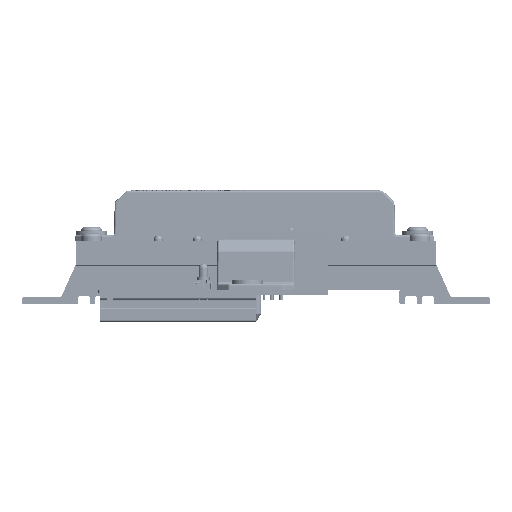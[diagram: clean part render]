
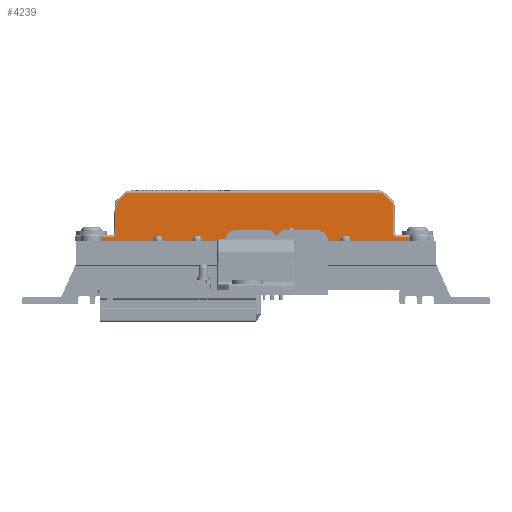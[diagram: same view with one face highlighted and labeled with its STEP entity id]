
A CAD part, left-side view. The second image highlights one B-rep face of the part: STEP entity #4239.
In plain terms, the highlighted planar face has unit normal (-1, 0, 0.009) as drawn and (0, 1, 0.009) by its records, which use the part's own axes.
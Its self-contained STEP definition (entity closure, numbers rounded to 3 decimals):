
#4239 = ADVANCED_FACE( '', ( #12467 ), #12468, .T. );
#12467 = FACE_OUTER_BOUND( '', #25446, .T. );
#12468 = PLANE( '', #25447 );
#25446 = EDGE_LOOP( '', ( #41723, #41724, #41725, #41726, #41727, #41728, #41729, #41730, #41731, #41732, #41733, #41734 ) );
#25447 = AXIS2_PLACEMENT_3D( '', #41735, #41736, #41737 );
#41723 = ORIENTED_EDGE( '', *, *, #87837, .T. );
#41724 = ORIENTED_EDGE( '', *, *, #87838, .T. );
#41725 = ORIENTED_EDGE( '', *, *, #87839, .T. );
#41726 = ORIENTED_EDGE( '', *, *, #87840, .T. );
#41727 = ORIENTED_EDGE( '', *, *, #87841, .T. );
#41728 = ORIENTED_EDGE( '', *, *, #87842, .T. );
#41729 = ORIENTED_EDGE( '', *, *, #87843, .T. );
#41730 = ORIENTED_EDGE( '', *, *, #87844, .T. );
#41731 = ORIENTED_EDGE( '', *, *, #87845, .T. );
#41732 = ORIENTED_EDGE( '', *, *, #87846, .T. );
#41733 = ORIENTED_EDGE( '', *, *, #87847, .T. );
#41734 = ORIENTED_EDGE( '', *, *, #87848, .T. );
#41735 = CARTESIAN_POINT( '', ( 0., 12.7, 0. ) );
#41736 = DIRECTION( '', ( 0., 1., 0.009 ) );
#41737 = DIRECTION( '', ( 0., -0.009, 1. ) );
#87837 = EDGE_CURVE( '', #103788, #103789, #103790, .F. );
#87838 = EDGE_CURVE( '', #103789, #103791, #103792, .T. );
#87839 = EDGE_CURVE( '', #103791, #103793, #103794, .F. );
#87840 = EDGE_CURVE( '', #103793, #103795, #103796, .F. );
#87841 = EDGE_CURVE( '', #103795, #103797, #103798, .F. );
#87842 = EDGE_CURVE( '', #103797, #103799, #103800, .F. );
#87843 = EDGE_CURVE( '', #103799, #103801, #103802, .F. );
#87844 = EDGE_CURVE( '', #103801, #103803, #103804, .T. );
#87845 = EDGE_CURVE( '', #103803, #103805, #103806, .F. );
#87846 = EDGE_CURVE( '', #103805, #103807, #103808, .F. );
#87847 = EDGE_CURVE( '', #103807, #103809, #103810, .F. );
#87848 = EDGE_CURVE( '', #103809, #103788, #103811, .T. );
#103788 = VERTEX_POINT( '', #126581 );
#103789 = VERTEX_POINT( '', #126582 );
#103790 = ELLIPSE( '', #126583, 1.27, 1.27 );
#103791 = VERTEX_POINT( '', #126584 );
#103792 = LINE( '', #126585, #126586 );
#103793 = VERTEX_POINT( '', #126587 );
#103794 = LINE( '', #126588, #126589 );
#103795 = VERTEX_POINT( '', #126590 );
#103796 = LINE( '', #126591, #126592 );
#103797 = VERTEX_POINT( '', #126593 );
#103798 = LINE( '', #126594, #126595 );
#103799 = VERTEX_POINT( '', #126596 );
#103800 = LINE( '', #126597, #126598 );
#103801 = VERTEX_POINT( '', #126599 );
#103802 = ELLIPSE( '', #126600, 1.27, 1.27 );
#103803 = VERTEX_POINT( '', #126601 );
#103804 = LINE( '', #126602, #126603 );
#103805 = VERTEX_POINT( '', #126604 );
#103806 = LINE( '', #126605, #126606 );
#103807 = VERTEX_POINT( '', #126607 );
#103808 = LINE( '', #126608, #126609 );
#103809 = VERTEX_POINT( '', #126610 );
#103810 = LINE( '', #126611, #126612 );
#103811 = LINE( '', #126613, #126614 );
#126581 = CARTESIAN_POINT( '', ( 45.074, 12.677, 2.65 ) );
#126582 = CARTESIAN_POINT( '', ( 46.344, 12.688, 1.403 ) );
#126583 = AXIS2_PLACEMENT_3D( '', #177623, #177624, #177625 );
#126584 = CARTESIAN_POINT( '', ( 54.335, 12.688, 1.403 ) );
#126585 = CARTESIAN_POINT( '', ( 54.329, 12.688, 1.403 ) );
#126586 = VECTOR( '', #177626, 1000. );
#126587 = CARTESIAN_POINT( '', ( 54.347, 12.7, 0. ) );
#126588 = CARTESIAN_POINT( '', ( 54.347, 12.7, -0.002 ) );
#126589 = VECTOR( '', #177627, 1000. );
#126590 = CARTESIAN_POINT( '', ( -54.347, 12.7, 0. ) );
#126591 = CARTESIAN_POINT( '', ( 0., 12.7, 0. ) );
#126592 = VECTOR( '', #177628, 1000. );
#126593 = CARTESIAN_POINT( '', ( -54.335, 12.688, 1.403 ) );
#126594 = CARTESIAN_POINT( '', ( -54.329, 12.682, 2.03 ) );
#126595 = VECTOR( '', #177629, 1000. );
#126596 = CARTESIAN_POINT( '', ( -46.344, 12.688, 1.403 ) );
#126597 = CARTESIAN_POINT( '', ( 0., 12.688, 1.403 ) );
#126598 = VECTOR( '', #177630, 1000. );
#126599 = CARTESIAN_POINT( '', ( -45.074, 12.677, 2.65 ) );
#126600 = AXIS2_PLACEMENT_3D( '', #177631, #177632, #177633 );
#126601 = CARTESIAN_POINT( '', ( -44.903, 12.591, 12.435 ) );
#126602 = CARTESIAN_POINT( '', ( -45.107, 12.693, 0.787 ) );
#126603 = VECTOR( '', #177634, 1000. );
#126604 = CARTESIAN_POINT( '', ( -41.398, 12.561, 15.881 ) );
#126605 = CARTESIAN_POINT( '', ( -41.4, 12.561, 15.878 ) );
#126606 = VECTOR( '', #177635, 1000. );
#126607 = CARTESIAN_POINT( '', ( 41.398, 12.561, 15.881 ) );
#126608 = CARTESIAN_POINT( '', ( 41.398, 12.561, 15.881 ) );
#126609 = VECTOR( '', #177636, 1000. );
#126610 = CARTESIAN_POINT( '', ( 44.903, 12.591, 12.435 ) );
#126611 = CARTESIAN_POINT( '', ( 44.906, 12.592, 12.433 ) );
#126612 = VECTOR( '', #177637, 1000. );
#126613 = CARTESIAN_POINT( '', ( 45.074, 12.677, 2.645 ) );
#126614 = VECTOR( '', #177638, 1000. );
#177623 = CARTESIAN_POINT( '', ( 46.344, 12.677, 2.673 ) );
#177624 = DIRECTION( '', ( 0., 1., 0.009 ) );
#177625 = DIRECTION( '', ( 0., -0.009, 1. ) );
#177626 = DIRECTION( '', ( 1., 0., 0. ) );
#177627 = DIRECTION( '', ( -0.009, -0.009, 1. ) );
#177628 = DIRECTION( '', ( 1., 0., 0. ) );
#177629 = DIRECTION( '', ( -0.009, 0.009, -1. ) );
#177630 = DIRECTION( '', ( -1., 0., 0. ) );
#177631 = CARTESIAN_POINT( '', ( -46.344, 12.677, 2.673 ) );
#177632 = DIRECTION( '', ( 0., 1., 0.009 ) );
#177633 = DIRECTION( '', ( 0., 0.009, -1. ) );
#177634 = DIRECTION( '', ( 0.017, -0.009, 1. ) );
#177635 = DIRECTION( '', ( -0.713, 0.006, -0.701 ) );
#177636 = DIRECTION( '', ( -1., 0., 0. ) );
#177637 = DIRECTION( '', ( -0.713, -0.006, 0.701 ) );
#177638 = DIRECTION( '', ( 0.017, 0.009, -1. ) );
